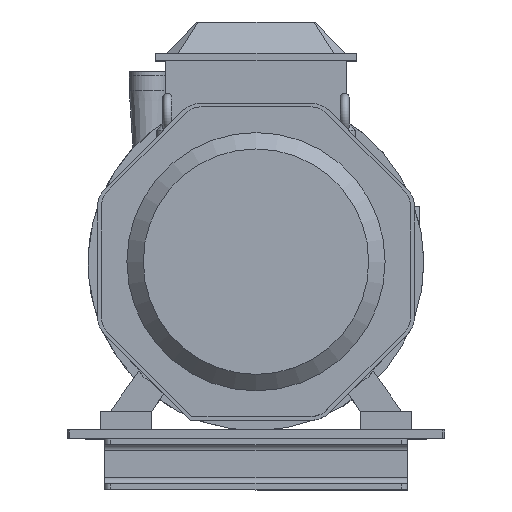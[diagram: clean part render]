
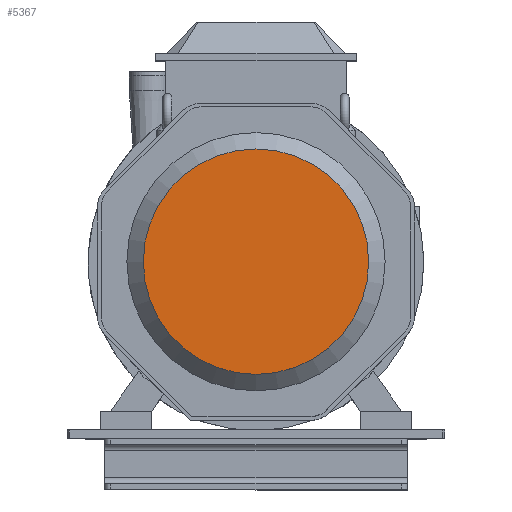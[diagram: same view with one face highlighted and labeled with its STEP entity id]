
A CAD part, top view. The second image highlights one B-rep face of the part: STEP entity #5367.
In plain terms, the highlighted planar face has unit normal (0, 0, 1).
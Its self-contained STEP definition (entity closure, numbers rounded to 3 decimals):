
#5351=CARTESIAN_POINT('',(0.,0.,1054.0));
#5352=DIRECTION('',(0.0,0.0,-1.0));
#5353=DIRECTION('',(-1.0,0.0,0.0));
#5354=AXIS2_PLACEMENT_3D('',#5351,#5352,#5353);
#5355=PLANE('',#5354);
#5356=CARTESIAN_POINT('',(151.077,0.,1054.0));
#5357=VERTEX_POINT('',#5356);
#5358=CARTESIAN_POINT('',(0.,0.,1054.0));
#5359=DIRECTION('',(0.0,0.0,-1.0));
#5360=DIRECTION('',(-1.0,0.0,0.0));
#5361=AXIS2_PLACEMENT_3D('',#5358,#5359,#5360);
#5362=CIRCLE('',#5361,151.077);
#5363=EDGE_CURVE('',#5357,#5357,#5362,.T.);
#5364=ORIENTED_EDGE('',*,*,#5363,.F.);
#5365=EDGE_LOOP('',(#5364));
#5366=FACE_OUTER_BOUND('',#5365,.T.);
#5367=ADVANCED_FACE('',(#5366),#5355,.F.);
